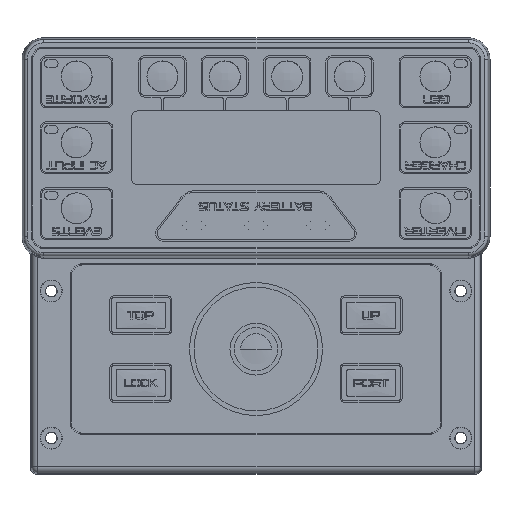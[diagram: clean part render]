
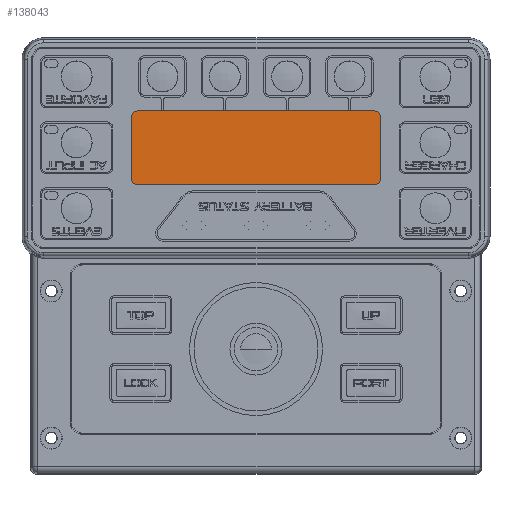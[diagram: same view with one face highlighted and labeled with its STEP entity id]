
A CAD part, top view. The second image highlights one B-rep face of the part: STEP entity #138043.
In plain terms, the highlighted planar face has unit normal (0, 0, 1).
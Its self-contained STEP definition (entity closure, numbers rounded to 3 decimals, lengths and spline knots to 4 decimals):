
#265 = AXIS2_PLACEMENT_3D ( 'NONE', #192556, #177264, #62297 ) ;
#2375 = VERTEX_POINT ( 'NONE', #168884 ) ;
#3461 = ORIENTED_EDGE ( 'NONE', *, *, #146048, .T. ) ;
#7406 = DIRECTION ( 'NONE',  ( -1., 0., 0. ) ) ;
#7578 = EDGE_CURVE ( 'NONE', #178561, #60984, #190251, .T. ) ;
#9171 = CARTESIAN_POINT ( 'NONE',  ( 5.244, -2.6253, 1.0405 ) ) ;
#10895 = DIRECTION ( 'NONE',  ( 0., 0., 1. ) ) ;
#12722 = DIRECTION ( 'NONE',  ( 0., -1., 0. ) ) ;
#13595 = CARTESIAN_POINT ( 'NONE',  ( 5.344, -2.5253, 1.0405 ) ) ;
#13917 = DIRECTION ( 'NONE',  ( 0., 0., 1. ) ) ;
#14708 = EDGE_CURVE ( 'NONE', #171201, #64585, #141214, .T. ) ;
#24423 = EDGE_CURVE ( 'NONE', #34692, #178561, #114639, .T. ) ;
#32643 = ORIENTED_EDGE ( 'NONE', *, *, #24423, .T. ) ;
#34278 = FACE_OUTER_BOUND ( 'NONE', #208266, .T. ) ;
#34692 = VERTEX_POINT ( 'NONE', #143474 ) ;
#35758 = CARTESIAN_POINT ( 'NONE',  ( 1.4125, -1.4355, 1.0405 ) ) ;
#36198 = EDGE_CURVE ( 'NONE', #60984, #174095, #186114, .T. ) ;
#40455 = CARTESIAN_POINT ( 'NONE',  ( 1.4125, -2.6253, 1.0405 ) ) ;
#41049 = VECTOR ( 'NONE', #194076, 39.3701 ) ;
#45896 = CARTESIAN_POINT ( 'NONE',  ( 5.244, -1.4355, 1.0405 ) ) ;
#48862 = ORIENTED_EDGE ( 'NONE', *, *, #14708, .T. ) ;
#50013 = CARTESIAN_POINT ( 'NONE',  ( 1.3125, -1.5355, 1.0405 ) ) ;
#51147 = CIRCLE ( 'NONE', #107662, 0.1 ) ;
#53402 = DIRECTION ( 'NONE',  ( 0., 0., 1. ) ) ;
#54181 = CARTESIAN_POINT ( 'NONE',  ( 1.4125, -2.5253, 1.0405 ) ) ;
#60984 = VERTEX_POINT ( 'NONE', #50013 ) ;
#62297 = DIRECTION ( 'NONE',  ( -1., 0., 0. ) ) ;
#64585 = VERTEX_POINT ( 'NONE', #13595 ) ;
#76436 = AXIS2_PLACEMENT_3D ( 'NONE', #112896, #13917, #161987 ) ;
#77518 = CARTESIAN_POINT ( 'NONE',  ( 1.3125, -2.5253, 1.0405 ) ) ;
#87079 = ORIENTED_EDGE ( 'NONE', *, *, #36198, .T. ) ;
#88957 = ORIENTED_EDGE ( 'NONE', *, *, #174096, .T. ) ;
#91810 = DIRECTION ( 'NONE',  ( -1., 0., 0. ) ) ;
#93532 = VERTEX_POINT ( 'NONE', #40455 ) ;
#101632 = EDGE_CURVE ( 'NONE', #93532, #171201, #175679, .T. ) ;
#104711 = DIRECTION ( 'NONE',  ( -1., 0., 0. ) ) ;
#105445 = ORIENTED_EDGE ( 'NONE', *, *, #101632, .T. ) ;
#107662 = AXIS2_PLACEMENT_3D ( 'NONE', #54181, #135805, #104711 ) ;
#109144 = ORIENTED_EDGE ( 'NONE', *, *, #7578, .T. ) ;
#112896 = CARTESIAN_POINT ( 'NONE',  ( 5.244, -2.5253, 1.0405 ) ) ;
#114639 = LINE ( 'NONE', #45896, #135370 ) ;
#119104 = CARTESIAN_POINT ( 'NONE',  ( 5.244, -2.5253, 1.0405 ) ) ;
#123225 = ORIENTED_EDGE ( 'NONE', *, *, #212902, .T. ) ;
#124071 = VECTOR ( 'NONE', #12722, 39.3701 ) ;
#127597 = CARTESIAN_POINT ( 'NONE',  ( 1.4125, -2.6253, 1.0405 ) ) ;
#131597 = VECTOR ( 'NONE', #160778, 39.3701 ) ;
#135370 = VECTOR ( 'NONE', #7406, 39.3701 ) ;
#135805 = DIRECTION ( 'NONE',  ( 0., 0., 1. ) ) ;
#138043 = ADVANCED_FACE ( 'NONE', ( #34278 ), #211899, .T. ) ;
#141214 = CIRCLE ( 'NONE', #196650, 0.1 ) ;
#143474 = CARTESIAN_POINT ( 'NONE',  ( 5.244, -1.4355, 1.0405 ) ) ;
#145556 = AXIS2_PLACEMENT_3D ( 'NONE', #208834, #10895, #91810 ) ;
#146048 = EDGE_CURVE ( 'NONE', #64585, #2375, #183264, .T. ) ;
#160778 = DIRECTION ( 'NONE',  ( 1., 0., 0. ) ) ;
#161987 = DIRECTION ( 'NONE',  ( -1., 0., 0. ) ) ;
#168884 = CARTESIAN_POINT ( 'NONE',  ( 5.344, -1.5355, 1.0405 ) ) ;
#171201 = VERTEX_POINT ( 'NONE', #9171 ) ;
#174095 = VERTEX_POINT ( 'NONE', #77518 ) ;
#174096 = EDGE_CURVE ( 'NONE', #2375, #34692, #207468, .T. ) ;
#175679 = LINE ( 'NONE', #127597, #131597 ) ;
#177264 = DIRECTION ( 'NONE',  ( 0., 0., 1. ) ) ;
#178561 = VERTEX_POINT ( 'NONE', #35758 ) ;
#178914 = CARTESIAN_POINT ( 'NONE',  ( 1.3125, -1.5355, 1.0405 ) ) ;
#183264 = LINE ( 'NONE', #211996, #41049 ) ;
#185658 = DIRECTION ( 'NONE',  ( -1., 0., 0. ) ) ;
#186114 = LINE ( 'NONE', #178914, #124071 ) ;
#190251 = CIRCLE ( 'NONE', #145556, 0.1 ) ;
#192556 = CARTESIAN_POINT ( 'NONE',  ( 5.244, -1.5355, 1.0405 ) ) ;
#194076 = DIRECTION ( 'NONE',  ( 0., 1., 0. ) ) ;
#196650 = AXIS2_PLACEMENT_3D ( 'NONE', #119104, #53402, #185658 ) ;
#207468 = CIRCLE ( 'NONE', #265, 0.1 ) ;
#208266 = EDGE_LOOP ( 'NONE', ( #48862, #3461, #88957, #32643, #109144, #87079, #123225, #105445 ) ) ;
#208834 = CARTESIAN_POINT ( 'NONE',  ( 1.4125, -1.5355, 1.0405 ) ) ;
#211899 = PLANE ( 'NONE',  #76436 ) ;
#211996 = CARTESIAN_POINT ( 'NONE',  ( 5.344, -2.5253, 1.0405 ) ) ;
#212902 = EDGE_CURVE ( 'NONE', #174095, #93532, #51147, .T. ) ;
